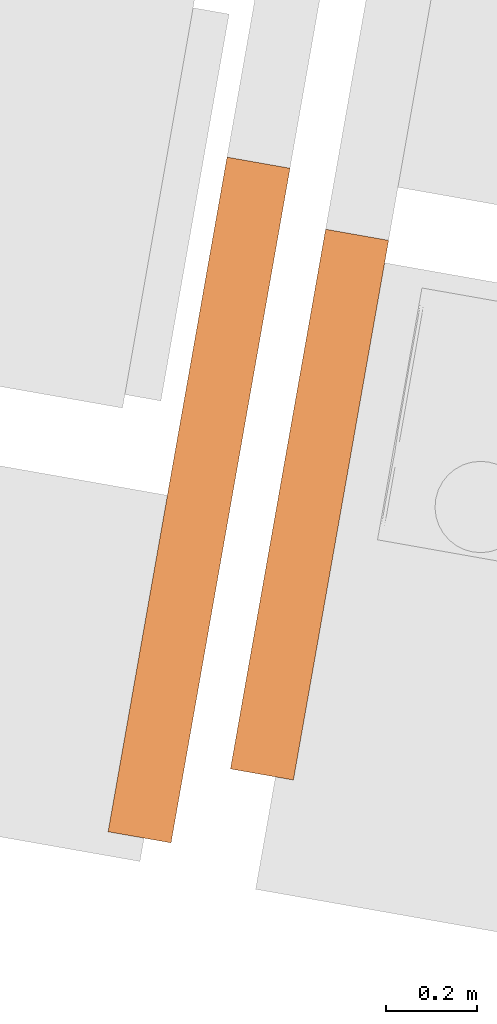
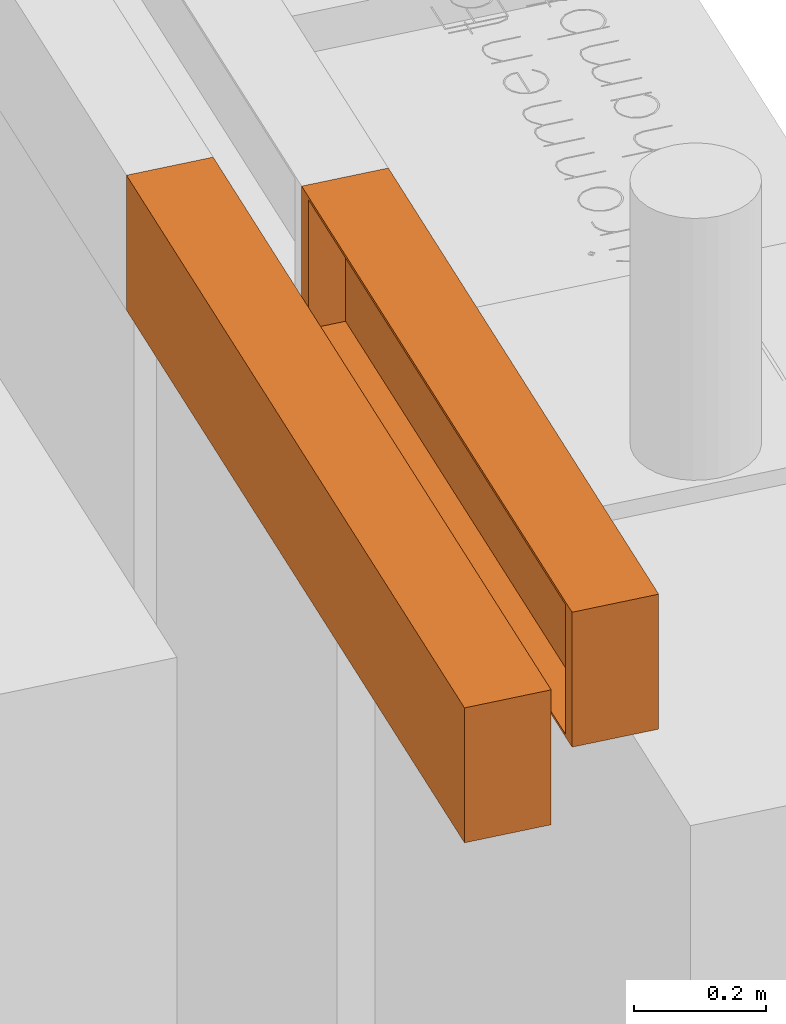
# One storey, part 12 of 43: 2 proxies.
"""IFC2X3 building model written with IfcOpenShell, lengths in metres."""

import ifcopenshell
import ifcopenshell.guid

model = None  # the IFC model being written
_history = None  # IfcOwnerHistory: only IFC2X3 demands one
_inside = {}  # id of a spatial element -> (the spatial element, [elements in it])
_under = {}  # id of a project, library or spatial element -> (it, [spatial elements below it])
_declared = {}  # id of a project -> (the project, [libraries it declares])
_typed = {}  # id of a type object -> (the type object, [elements of that type])
_made_of = {}  # id of a material, layer set ... -> (it, [elements and type objects made of it])


def new_model(schema):
    """Start an empty IFC model of exactly this schema.

    Asked for "IFC4X3", IfcOpenShell would pick the latest addendum, in which some entities
    have other attributes; the version numbers below select the first issue.
    IFC2X3 requires an IfcOwnerHistory on every rooted entity: one is made here for all.
    """
    global model, _history
    if schema == "IFC4X3":
        model = ifcopenshell.file(schema_version=(4, 3, 0, 0))
    else:
        model = ifcopenshell.file(schema=schema)
    _inside.clear()
    _under.clear()
    _declared.clear()
    _typed.clear()
    _made_of.clear()
    _history = None
    if model.schema == "IFC2X3":
        org = make("IfcOrganization", Name="unknown")
        user = make(
            "IfcPersonAndOrganization",
            ThePerson=make("IfcPerson", FamilyName="unknown"),
            TheOrganization=org,
        )
        app = make(
            "IfcApplication",
            ApplicationDeveloper=org,
            Version="unknown",
            ApplicationFullName="unknown",
            ApplicationIdentifier="unknown",
        )
        _history = make(
            "IfcOwnerHistory",
            OwningUser=user,
            OwningApplication=app,
            ChangeAction="ADDED",
            CreationDate=0,
        )
    return model


def make(cls, **values):
    """One entity of the class cls with the attributes given. An attribute that is None is left unset."""
    return model.create_entity(
        cls, **{name: value for name, value in values.items() if value is not None}
    )


def entity(cls, *values):
    """Any entity or typed value of the class cls, its attributes in the order of the schema. None: left unset."""
    e = model.create_entity(cls)
    for i, value in enumerate(values):
        if value is not None:
            e[i] = value
    return e


def rooted(cls, **values):
    """An entity with a GlobalId (a new one), such as an element, a storey or a relation."""
    return make(cls, GlobalId=ifcopenshell.guid.new(), OwnerHistory=_history, **values)


def si_unit(unit_type, name, prefix=None):
    """IfcSIUnit, for example si_unit("LENGTHUNIT", "METRE", prefix="MILLI")."""
    return make("IfcSIUnit", UnitType=unit_type, Prefix=prefix, Name=name)


def converted_unit(unit_type, name, factor, base, dimensions=None, offset=None):
    """IfcConversionBasedUnit, such as the inch: factor (a typed value) times the base unit."""
    return make(
        "IfcConversionBasedUnit"
        if offset is None
        else "IfcConversionBasedUnitWithOffset",
        ConversionOffset=offset,
        Dimensions=None
        if dimensions is None
        else entity("IfcDimensionalExponents", *dimensions),
        UnitType=unit_type,
        Name=name,
        ConversionFactor=make(
            "IfcMeasureWithUnit", ValueComponent=factor, UnitComponent=base
        ),
    )


def derived_unit(unit_type, elements):
    """IfcDerivedUnit: a product of units, each with its exponent."""
    return make(
        "IfcDerivedUnit",
        Elements=[
            make("IfcDerivedUnitElement", Unit=unit, Exponent=power)
            for unit, power in elements
        ],
        UnitType=unit_type,
    )


def assignment(units):
    """IfcUnitAssignment: the units of a project."""
    return None if units is None else make("IfcUnitAssignment", Units=units)


def point(xyz):
    """IfcCartesianPoint."""
    return None if xyz is None else make("IfcCartesianPoint", Coordinates=xyz)


def direction(xyz):
    """IfcDirection."""
    return None if xyz is None else make("IfcDirection", DirectionRatios=xyz)


def frame(location, z_axis=None, x_axis=None):
    """IfcAxis2Placement3D, a coordinate frame: its origin and axes. An axis left out is left unset."""
    return make(
        "IfcAxis2Placement3D",
        Location=point(location),
        Axis=direction(z_axis),
        RefDirection=direction(x_axis),
    )


def frame_2d(location, x_axis=None):
    """IfcAxis2Placement2D, a coordinate frame in the plane: its origin and x axis."""
    return make(
        "IfcAxis2Placement2D", Location=point(location), RefDirection=direction(x_axis)
    )


def origin():
    """The frame at (0, 0, 0) with its axes left unset."""
    return frame((0.0, 0.0, 0.0))


def origin_2d_with_axis():
    """The frame at (0, 0) in the plane with the x axis (1, 0) written out."""
    return frame_2d((0.0, 0.0), x_axis=(1.0, 0.0))


def place(relative_to, where):
    """IfcLocalPlacement: puts the frame where relative to a parent placement (None: the world)."""
    return make(
        "IfcLocalPlacement", PlacementRelTo=relative_to, RelativePlacement=where
    )


def context(
    kind, dimensions, precision=None, world=None, true_north=None, identifier=None
):
    """IfcGeometricRepresentationContext, for example the 3D "Model" context."""
    return make(
        "IfcGeometricRepresentationContext",
        ContextIdentifier=identifier,
        ContextType=kind,
        CoordinateSpaceDimension=dimensions,
        Precision=precision,
        WorldCoordinateSystem=world,
        TrueNorth=true_north,
    )


def subcontext(parent, identifier, kind, view, scale=None):
    """IfcGeometricRepresentationSubContext, for example "Body" below "Model"."""
    return make(
        "IfcGeometricRepresentationSubContext",
        ContextIdentifier=identifier,
        ContextType=kind,
        ParentContext=parent,
        TargetScale=scale,
        TargetView=view,
    )


def project(units=None, contexts=None):
    """IfcProject with its units and contexts."""
    return rooted(
        "IfcProject",
        Name="project",
        RepresentationContexts=contexts,
        UnitsInContext=assignment(units),
    )


def spatial(cls, under=None, at=None, **own):
    """A site, building, storey or space (cls), placed at a placement, below another one or the project."""
    s = rooted(cls, ObjectPlacement=at, **own)
    if under is not None:
        _under.setdefault(under.id(), (under, []))[1].append(s)
    return s


def profile(cls, at=None, kind="AREA", **sizes):
    """A parametric profile (cls). Its sizes go by their IFC names, for example OverallWidth=200.0."""
    return make(cls, ProfileType=kind, Position=at, **sizes)


def rectangle(**sizes):
    """IfcRectangleProfileDef."""
    return profile("IfcRectangleProfileDef", **sizes)


def extrude(swept, where, along, depth):
    """IfcExtrudedAreaSolid: the profile swept, set in the frame where, extruded along a direction by depth."""
    return make(
        "IfcExtrudedAreaSolid",
        SweptArea=swept,
        Position=where,
        ExtrudedDirection=direction(along),
        Depth=depth,
    )


def shape(context_of_items, identifier, shape_type, items):
    """IfcShapeRepresentation: the items that make up one representation, for example the "Body"."""
    return make(
        "IfcShapeRepresentation",
        ContextOfItems=context_of_items,
        RepresentationIdentifier=identifier,
        RepresentationType=shape_type,
        Items=items,
    )


def source(mapping_origin, context_of_items, identifier, shape_type, items):
    """IfcRepresentationMap: a shape defined once, which mapped items show again and again."""
    return make(
        "IfcRepresentationMap",
        MappingOrigin=mapping_origin,
        MappedRepresentation=shape(context_of_items, identifier, shape_type, items),
    )


def transform(
    local_origin,
    x_axis=None,
    y_axis=None,
    z_axis=None,
    scale=None,
    scale2=None,
    scale3=None,
    uniform=True,
):
    """IfcCartesianTransformationOperator3D, or its non-uniform kind. x_axis, y_axis, z_axis: its Axis1, 2, 3."""
    if uniform:
        return make(
            "IfcCartesianTransformationOperator3D",
            Axis1=direction(x_axis),
            Axis2=direction(y_axis),
            LocalOrigin=point(local_origin),
            Scale=scale,
            Axis3=direction(z_axis),
        )
    return make(
        "IfcCartesianTransformationOperator3DnonUniform",
        Axis1=direction(x_axis),
        Axis2=direction(y_axis),
        LocalOrigin=point(local_origin),
        Scale=scale,
        Axis3=direction(z_axis),
        Scale2=scale2,
        Scale3=scale3,
    )


def mapped(mapping_source, mapping_target):
    """IfcMappedItem: shows the shape of a source again, moved by a transform."""
    return make(
        "IfcMappedItem", MappingSource=mapping_source, MappingTarget=mapping_target
    )


def material(Name=None, Category=None):
    """IfcMaterial."""
    return make("IfcMaterial", Name=Name, Category=Category)


def material_list(materials):
    """IfcMaterialList."""
    return make("IfcMaterialList", Materials=materials)


def made_of(thing, what):
    """Note that an element or type object is made of a material, layer set ...; save() writes the relation."""
    if what is not None:
        _made_of.setdefault(what.id(), (what, []))[1].append(thing)
    return thing


def type_object(cls, material=None, **own):
    """A type object (cls), such as IfcWallType, which elements share."""
    return made_of(rooted(cls, **own), material)


def type_shapes(of_type, sources):
    """Give a type object the sources (RepresentationMaps) that its elements show as mapped items."""
    of_type.RepresentationMaps = sources


def element(
    cls,
    number,
    at=None,
    inside=None,
    cuts=None,
    type_object=None,
    material=None,
    context=None,
    identifier="Body",
    shape_type=None,
    held_by="IfcProductDefinitionShape",
    body=None,
    shapes=None,
    **own,
):
    """One element of the class cls, such as IfcWall. Its Tag is "e" and its number.

    at: its placement. inside: the storey or other place that contains it. cuts: it is an
    opening in that element (IfcRelVoidsElement). A single representation is given by context,
    identifier, shape_type and body (its items); several are given by shapes. held_by: the class
    of the entity that holds the representations. save() writes the other relations.
    """
    e = rooted(cls, Tag="e%d" % number, ObjectPlacement=at, **own)
    if body is not None:
        shapes = [shape(context, identifier, shape_type, body)]
    if shapes is not None:
        e.Representation = make(held_by, Representations=shapes)
    if inside is not None:
        _inside.setdefault(inside.id(), (inside, []))[1].append(e)
    if cuts is not None:
        rooted(
            "IfcRelVoidsElement", RelatingBuildingElement=cuts, RelatedOpeningElement=e
        )
    if type_object is not None:
        _typed.setdefault(type_object.id(), (type_object, []))[1].append(e)
    return made_of(e, material)


def aggregate(whole, parts):
    """IfcRelAggregates: a whole, such as a stair, and the parts it consists of."""
    return rooted("IfcRelAggregates", RelatingObject=whole, RelatedObjects=parts)


def save(model, path):
    """Write the relations noted so far, then the file.

    IfcRelAggregates (storeys below a building ...), IfcRelContainedInSpatialStructure (elements
    in a storey), IfcRelDefinesByType, IfcRelAssociatesMaterial and IfcRelDeclares: one each for
    every whole, place, type object, material and project.
    """
    for whole, parts in _under.values():
        aggregate(whole, parts)
    for where, things in _inside.values():
        rooted(
            "IfcRelContainedInSpatialStructure",
            RelatedElements=things,
            RelatingStructure=where,
        )
    for kind, things in _typed.values():
        rooted("IfcRelDefinesByType", RelatedObjects=things, RelatingType=kind)
    for what, things in _made_of.values():
        rooted("IfcRelAssociatesMaterial", RelatedObjects=things, RelatingMaterial=what)
    for by, libraries in _declared.values():
        rooted("IfcRelDeclares", RelatingContext=by, RelatedDefinitions=libraries)
    model.write(path)


model = new_model("IFC2X3")

# Units and contexts
model_context = context("Model", 3, precision=1e-05, world=origin(), true_north=direction((6.12303176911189e-17, 1.0)))
body_context = subcontext(model_context, "Body", "Model", "MODEL_VIEW")
ifc_project = project(units=[si_unit("LENGTHUNIT", "METRE"), si_unit("AREAUNIT", "SQUARE_METRE"), si_unit("VOLUMEUNIT", "CUBIC_METRE"), converted_unit("PLANEANGLEUNIT", "DEGREE", entity("IfcRatioMeasure", 0.0174532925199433), si_unit("PLANEANGLEUNIT", "RADIAN"), dimensions=[0, 0, 0, 0, 0, 0, 0]), si_unit("MASSUNIT", "GRAM", prefix="KILO"), derived_unit("MASSDENSITYUNIT", [(si_unit("MASSUNIT", "GRAM", prefix="KILO"), 1), (si_unit("LENGTHUNIT", "METRE"), -3)]), derived_unit("MOMENTOFINERTIAUNIT", [(si_unit("LENGTHUNIT", "METRE"), 4)]), si_unit("TIMEUNIT", "SECOND"), si_unit("FREQUENCYUNIT", "HERTZ"), si_unit("THERMODYNAMICTEMPERATUREUNIT", "DEGREE_CELSIUS"), derived_unit("THERMALTRANSMITTANCEUNIT", [(si_unit("MASSUNIT", "GRAM", prefix="KILO"), 1), (si_unit("THERMODYNAMICTEMPERATUREUNIT", "KELVIN"), -1), (si_unit("TIMEUNIT", "SECOND"), -3)]), derived_unit("VOLUMETRICFLOWRATEUNIT", [(si_unit("LENGTHUNIT", "METRE"), 3), (si_unit("TIMEUNIT", "SECOND"), -1)]), si_unit("ELECTRICCURRENTUNIT", "AMPERE"), si_unit("ELECTRICVOLTAGEUNIT", "VOLT"), si_unit("POWERUNIT", "WATT"), si_unit("FORCEUNIT", "NEWTON", prefix="KILO"), si_unit("ILLUMINANCEUNIT", "LUX"), si_unit("LUMINOUSFLUXUNIT", "LUMEN"), si_unit("LUMINOUSINTENSITYUNIT", "CANDELA"), derived_unit("USERDEFINED", [(si_unit("MASSUNIT", "GRAM", prefix="KILO"), -1), (si_unit("LENGTHUNIT", "METRE"), -2), (si_unit("TIMEUNIT", "SECOND"), 3), (si_unit("LUMINOUSFLUXUNIT", "LUMEN"), 1)]), derived_unit("LINEARVELOCITYUNIT", [(si_unit("LENGTHUNIT", "METRE"), 1), (si_unit("TIMEUNIT", "SECOND"), -1)]), si_unit("PRESSUREUNIT", "PASCAL"), derived_unit("USERDEFINED", [(si_unit("LENGTHUNIT", "METRE"), -2), (si_unit("MASSUNIT", "GRAM", prefix="KILO"), 1), (si_unit("TIMEUNIT", "SECOND"), -2)]), derived_unit("LINEARFORCEUNIT", [(si_unit("MASSUNIT", "GRAM", prefix="KILO"), 1), (si_unit("LENGTHUNIT", "METRE"), 1), (si_unit("TIMEUNIT", "SECOND"), -2), (si_unit("LENGTHUNIT", "METRE"), -1)]), derived_unit("PLANARFORCEUNIT", [(si_unit("MASSUNIT", "GRAM", prefix="KILO"), 1), (si_unit("LENGTHUNIT", "METRE"), 1), (si_unit("TIMEUNIT", "SECOND"), -2), (si_unit("LENGTHUNIT", "METRE"), -2)])], contexts=[model_context])

# Site, building, storey
site_placement = place(None, origin())
site = spatial("IfcSite", under=ifc_project, at=site_placement, Name="Default", CompositionType="ELEMENT")
building_placement = place(site_placement, origin())
building = spatial("IfcBuilding", under=site, at=building_placement, CompositionType="ELEMENT")
storey_placement = place(building_placement, frame((0.0, 0.0, 3.0)))
storey = spatial("IfcBuildingStorey", under=building, at=storey_placement, Name="01 OG", CompositionType="ELEMENT", Elevation=3.0)

# Proxies
ifc_material_1 = material(Name="dh_EZ blau")
ifc_material_2 = material(Name="dh_Weiß")
ifc_material_list_1 = material_list([ifc_material_1, ifc_material_2])
ifc_material_3 = material(Name="dh_Blau")
ifc_material_list_2 = material_list([ifc_material_2, ifc_material_3, ifc_material_1])
building_element_proxy_type_1 = type_object("IfcBuildingElementProxyType", Name="dh_Einzel_ MEK:MEK 120", PredefinedType="NOTDEFINED", material=ifc_material_list_2)
shared_shape_1 = source(origin(), body_context, "Body", "SweptSolid", [
    extrude(rectangle(XDim=0.06, YDim=0.0299999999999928, at=origin_2d_with_axis()), frame((0.585000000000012, 0.33, 2.19499999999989), z_axis=(0.0, 0.0, 1.0), x_axis=(0.0, 1.0, 0.0)), (0.0, 0.0, 1.0), 0.240000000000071),
    extrude(rectangle(XDim=0.06, YDim=0.0299999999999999, at=origin_2d_with_axis()), frame((-0.584999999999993, 0.33, 2.19499999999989), z_axis=(0.0, 0.0, 1.0), x_axis=(0.0, 1.0, 0.0)), (0.0, 0.0, 1.0), 0.240000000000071),
    extrude(rectangle(XDim=0.06, YDim=1.20000000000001, at=frame_2d((0.0, -2.05391259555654e-15), x_axis=(1.0, 0.0))), frame((0.0, 0.33, 2.43499999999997), z_axis=(0.0, 0.0, 1.0), x_axis=(0.0, 1.0, 0.0)), (0.0, 0.0, 1.0), 0.00500000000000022),
    extrude(rectangle(XDim=1.20000000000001, YDim=0.14, at=frame_2d((-3.21964677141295e-15, -0.00333333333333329), x_axis=(1.0, 0.0))), frame((0.0, 0.293333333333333, 2.18999999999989)), (0.0, 0.0, 1.0), 0.00499999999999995),
    extrude(rectangle(XDim=0.08, YDim=1.20000000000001, at=frame_2d((0.0133333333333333, 2.55351295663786e-15), x_axis=(1.0, 0.0))), frame((0.0, 0.273333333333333, 2.43499999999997), z_axis=(0.0, 0.0, 1.0), x_axis=(0.0, -1.0, 0.0)), (0.0, 0.0, 1.0), 0.00499999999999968),
    extrude(rectangle(XDim=1.2, YDim=0.08, at=frame_2d((0.0, 3.46944695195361e-17), x_axis=(1.0, 0.0))), frame((0.0, 0.26, 2.195), z_axis=(0.0, 0.0, 1.0), x_axis=(-1.0, 0.0, 0.0)), (0.0, 0.0, 1.0), 0.239999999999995),
])
type_shapes(building_element_proxy_type_1, [shared_shape_1])
proxy_1_placement = place(storey_placement, frame((26.1791286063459, 8.12432908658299, 0.0), z_axis=(0.0, 0.0, 1.0), x_axis=(0.17364817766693, 0.984807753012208, 0.0)))
element("IfcBuildingElementProxy", 1, at=proxy_1_placement, inside=storey, type_object=building_element_proxy_type_1, material=ifc_material_list_1, Name="dh_Einzel_ MEK:MEK 120", ObjectType="dh_Einzel_ MEK:MEK 120", context=body_context, shape_type="MappedRepresentation", body=[
    mapped(shared_shape_1, transform((0.0, 0.0, 0.0), scale=1.0)),
])
ifc_material_list_3 = material_list([ifc_material_1, ifc_material_2])
ifc_material_list_4 = material_list([ifc_material_2, ifc_material_3, ifc_material_1])
building_element_proxy_type_2 = type_object("IfcBuildingElementProxyType", Name="dh_Einzel_ MEK:MEK 150", PredefinedType="NOTDEFINED", material=ifc_material_list_4)
shared_shape_2 = source(origin(), body_context, "Body", "SweptSolid", [
    extrude(rectangle(XDim=0.06, YDim=0.0299999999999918, at=origin_2d_with_axis()), frame((0.88500000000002, 0.33, 2.19499999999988), z_axis=(0.0, 0.0, 1.0), x_axis=(0.0, 1.0, 0.0)), (0.0, 0.0, 1.0), 0.240000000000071),
    extrude(rectangle(XDim=0.06, YDim=0.0299999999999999, at=origin_2d_with_axis()), frame((-0.584999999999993, 0.33, 2.19499999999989), z_axis=(0.0, 0.0, 1.0), x_axis=(0.0, 1.0, 0.0)), (0.0, 0.0, 1.0), 0.240000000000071),
    extrude(rectangle(XDim=0.06, YDim=1.50000000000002, at=origin_2d_with_axis()), frame((0.150000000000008, 0.33, 2.43499999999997), z_axis=(0.0, 0.0, 1.0), x_axis=(0.0, 1.0, 0.0)), (0.0, 0.0, 1.0), 0.00499999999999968),
    extrude(rectangle(XDim=1.50000000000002, YDim=0.14, at=frame_2d((-2.4980018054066e-15, -0.00333333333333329), x_axis=(1.0, 0.0))), frame((0.15000000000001, 0.293333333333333, 2.18999999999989)), (0.0, 0.0, 1.0), 0.00499999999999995),
    extrude(rectangle(XDim=0.08, YDim=1.50000000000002, at=frame_2d((0.0133333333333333, -1.11022302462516e-16), x_axis=(1.0, 0.0))), frame((0.150000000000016, 0.273333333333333, 2.43499999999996), z_axis=(0.0, 0.0, 1.0), x_axis=(0.0, -1.0, 0.0)), (0.0, 0.0, 1.0), 0.00500000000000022),
    extrude(rectangle(XDim=1.5, YDim=0.08, at=frame_2d((0.0, 3.46944695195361e-17), x_axis=(1.0, 0.0))), frame((0.15, 0.26, 2.195), z_axis=(0.0, 0.0, 1.0), x_axis=(-1.0, 0.0, 0.0)), (0.0, 0.0, 1.0), 0.239999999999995),
])
type_shapes(building_element_proxy_type_2, [shared_shape_2])
proxy_2_placement = place(storey_placement, frame((25.3920767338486, 8.38292790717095, 0.0), z_axis=(0.0, 0.0, 1.0), x_axis=(-0.173648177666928, -0.984807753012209, 0.0)))
element("IfcBuildingElementProxy", 2, at=proxy_2_placement, inside=storey, type_object=building_element_proxy_type_2, material=ifc_material_list_3, Name="dh_Einzel_ MEK:MEK 150", ObjectType="dh_Einzel_ MEK:MEK 150", context=body_context, shape_type="MappedRepresentation", body=[
    mapped(shared_shape_2, transform((0.0, 0.0, 0.0), scale=1.0)),
])

save(model, "model.ifc")
